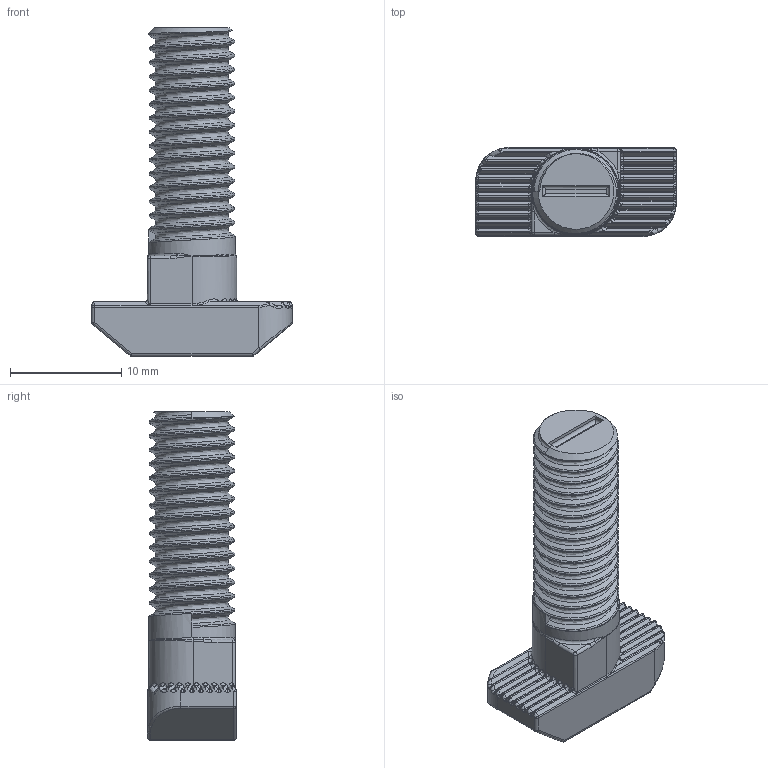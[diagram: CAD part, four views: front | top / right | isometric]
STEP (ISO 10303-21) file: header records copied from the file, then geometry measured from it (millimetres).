
FILE_DESCRIPTION (( 'STEP AP203' ), '1' );
FILE_NAME ('5027.STEP', '2016-01-21T10:16:10', ( '' ), ( '' ), 'SwSTEP 2.0', 'SolidWorks 2014', '' );
FILE_SCHEMA (( 'CONFIG_CONTROL_DESIGN' ));
Length unit declared in the file: millimetre
Products named in the file (1): 5027
Bounding box: 18 x 8 x 29.5 mm (x, y, z)
Volume: 1630.6 mm3; surface area: 1256.2 mm2
Topology: 1 solids, 1 shells, 371 faces, 894 edges, 472 vertices
Faces by surface type: bspline 143, cylinder 127, plane 61, torus 29, sphere 10, cone 1
Entity records: 17844 total; most frequent: CARTESIAN_POINT 10673, ORIENTED_EDGE 1680, DIRECTION 1284, EDGE_CURVE 840, AXIS2_PLACEMENT_3D 514, VERTEX_POINT 472, EDGE_LOOP 372, ADVANCED_FACE 371
